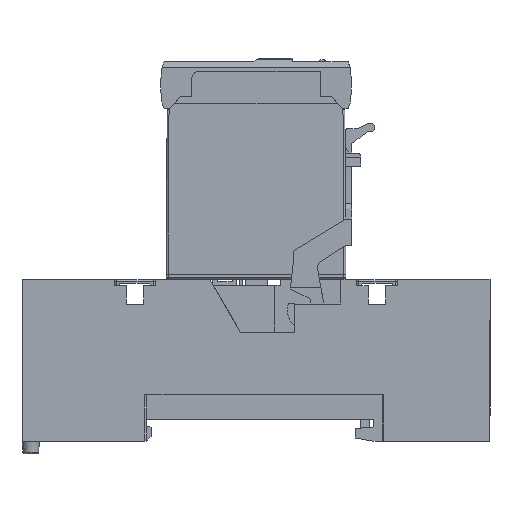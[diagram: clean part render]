
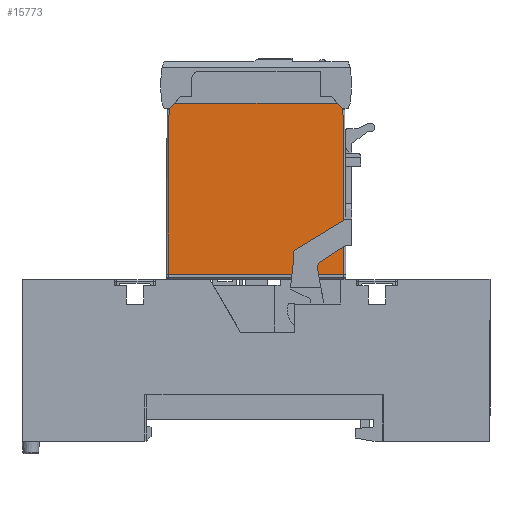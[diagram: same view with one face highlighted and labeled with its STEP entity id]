
A CAD part, left-side view. The second image highlights one B-rep face of the part: STEP entity #15773.
In plain terms, the highlighted planar face has unit normal (-1, 0, 0.006).
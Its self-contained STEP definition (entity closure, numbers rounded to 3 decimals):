
#7 = DIRECTION ( 'NONE',  ( 0.006, -0.006, 1. ) ) ;
#1769 = CARTESIAN_POINT ( 'NONE',  ( 1.66, 37.5, 28.8 ) ) ;
#3084 = DIRECTION ( 'NONE',  ( 1., 0., -0.006 ) ) ;
#3214 = LINE ( 'NONE', #22641, #19845 ) ;
#3796 = CARTESIAN_POINT ( 'NONE',  ( 1.814, 51.436, 55.295 ) ) ;
#4255 = EDGE_CURVE ( 'NONE', #14929, #4810, #16449, .T. ) ;
#4810 = VERTEX_POINT ( 'NONE', #3796 ) ;
#5004 = VECTOR ( 'NONE', #14937, 1000. ) ;
#5013 = EDGE_CURVE ( 'NONE', #36443, #14929, #31372, .T. ) ;
#5532 = DIRECTION ( 'NONE',  ( -0.006, -0.006, -1. ) ) ;
#6581 = DIRECTION ( 'NONE',  ( 0.004, 0.707, 0.707 ) ) ;
#6818 = CARTESIAN_POINT ( 'NONE',  ( 1.819, 24.469, 56.2 ) ) ;
#7763 = EDGE_CURVE ( 'NONE', #13242, #26641, #28817, .T. ) ;
#8046 = DIRECTION ( 'NONE',  ( -0.004, 0.707, -0.707 ) ) ;
#9207 = LINE ( 'NONE', #28616, #40063 ) ;
#9472 = DIRECTION ( 'NONE',  ( 0., -1., 0. ) ) ;
#10840 = CARTESIAN_POINT ( 'NONE',  ( 1.66, 23.41, 28.8 ) ) ;
#12607 = PLANE ( 'NONE',  #17669 ) ;
#13242 = VERTEX_POINT ( 'NONE', #19162 ) ;
#13286 = ORIENTED_EDGE ( 'NONE', *, *, #41279, .F. ) ;
#13969 = EDGE_CURVE ( 'NONE', #22937, #26641, #3214, .T. ) ;
#14380 = ORIENTED_EDGE ( 'NONE', *, *, #4255, .F. ) ;
#14567 = CARTESIAN_POINT ( 'NONE',  ( 1.819, 50.531, 56.2 ) ) ;
#14929 = VERTEX_POINT ( 'NONE', #15943 ) ;
#14937 = DIRECTION ( 'NONE',  ( 0., 1., 0. ) ) ;
#15773 = ADVANCED_FACE ( 'NONE', ( #41554 ), #12607, .F. ) ;
#15943 = CARTESIAN_POINT ( 'NONE',  ( 1.66, 51.59, 28.8 ) ) ;
#16225 = EDGE_LOOP ( 'NONE', ( #25622, #13286, #24646, #20111, #39969, #14380 ) ) ;
#16294 = CARTESIAN_POINT ( 'NONE',  ( 1.814, 23.564, 55.295 ) ) ;
#16449 = LINE ( 'NONE', #25976, #29040 ) ;
#17669 = AXIS2_PLACEMENT_3D ( 'NONE', #29601, #3084, #40217 ) ;
#19162 = CARTESIAN_POINT ( 'NONE',  ( 1.814, 23.564, 55.295 ) ) ;
#19845 = VECTOR ( 'NONE', #9472, 1000. ) ;
#20111 = ORIENTED_EDGE ( 'NONE', *, *, #13969, .F. ) ;
#20619 = VECTOR ( 'NONE', #8046, 1000. ) ;
#22641 = CARTESIAN_POINT ( 'NONE',  ( 1.819, 37.5, 56.2 ) ) ;
#22937 = VERTEX_POINT ( 'NONE', #25483 ) ;
#24646 = ORIENTED_EDGE ( 'NONE', *, *, #7763, .T. ) ;
#25483 = CARTESIAN_POINT ( 'NONE',  ( 1.819, 50.531, 56.2 ) ) ;
#25622 = ORIENTED_EDGE ( 'NONE', *, *, #5013, .F. ) ;
#25976 = CARTESIAN_POINT ( 'NONE',  ( 1.66, 51.59, 28.8 ) ) ;
#26641 = VERTEX_POINT ( 'NONE', #6818 ) ;
#28616 = CARTESIAN_POINT ( 'NONE',  ( 1.814, 23.564, 55.295 ) ) ;
#28817 = LINE ( 'NONE', #16294, #33092 ) ;
#29040 = VECTOR ( 'NONE', #7, 1000. ) ;
#29259 = EDGE_CURVE ( 'NONE', #22937, #4810, #31379, .T. ) ;
#29601 = CARTESIAN_POINT ( 'NONE',  ( 1.75, 37.5, 44.286 ) ) ;
#31372 = LINE ( 'NONE', #1769, #5004 ) ;
#31379 = LINE ( 'NONE', #14567, #20619 ) ;
#33092 = VECTOR ( 'NONE', #6581, 1000. ) ;
#36443 = VERTEX_POINT ( 'NONE', #10840 ) ;
#39969 = ORIENTED_EDGE ( 'NONE', *, *, #29259, .T. ) ;
#40063 = VECTOR ( 'NONE', #5532, 1000. ) ;
#40217 = DIRECTION ( 'NONE',  ( -0.006, 0., -1. ) ) ;
#41279 = EDGE_CURVE ( 'NONE', #13242, #36443, #9207, .T. ) ;
#41554 = FACE_OUTER_BOUND ( 'NONE', #16225, .T. ) ;
